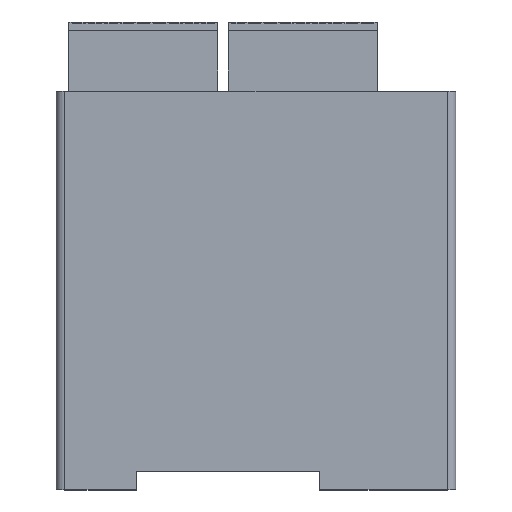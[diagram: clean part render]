
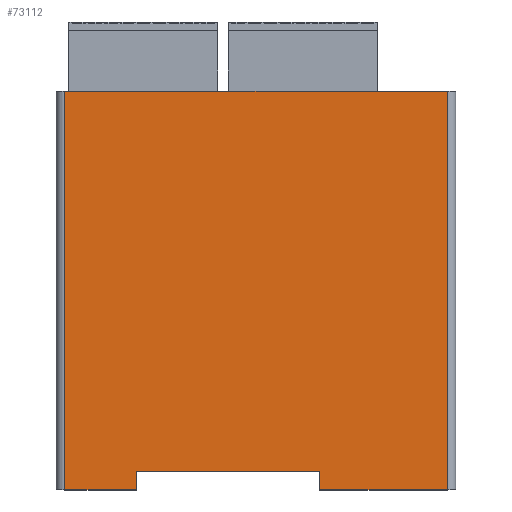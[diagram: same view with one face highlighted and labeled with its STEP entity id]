
A CAD part, top view. The second image highlights one B-rep face of the part: STEP entity #73112.
In plain terms, the highlighted planar face has unit normal (0, 0, 1).
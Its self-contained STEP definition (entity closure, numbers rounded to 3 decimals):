
#17=DIRECTION('',(0.,-1.,0.));
#18=VECTOR('',#17,4.35);
#19=CARTESIAN_POINT('',(15.01,-34.35,31.));
#20=LINE('',#19,#18);
#29=DIRECTION('',(1.,0.,0.));
#30=VECTOR('',#29,43.08);
#31=CARTESIAN_POINT('',(-28.07,-34.35,31.));
#32=LINE('',#31,#30);
#75=DIRECTION('',(0.,-1.,0.));
#76=VECTOR('',#75,93.7);
#77=CARTESIAN_POINT('',(-45.,55.,31.));
#78=LINE('',#77,#76);
#5947=DIRECTION('',(0.,1.,0.));
#5948=VECTOR('',#5947,93.7);
#5949=CARTESIAN_POINT('',(45.,-38.7,31.));
#5950=LINE('',#5949,#5948);
#7795=DIRECTION('',(0.,-1.,0.));
#7796=VECTOR('',#7795,4.35);
#7797=CARTESIAN_POINT('',(-28.07,-34.35,31.));
#7798=LINE('',#7797,#7796);
#7799=DIRECTION('',(-1.,0.,0.));
#7800=VECTOR('',#7799,16.93);
#7801=CARTESIAN_POINT('',(-28.07,-38.7,31.));
#7802=LINE('',#7801,#7800);
#7803=DIRECTION('',(1.,0.,0.));
#7804=VECTOR('',#7803,90.);
#7805=CARTESIAN_POINT('',(-45.,55.,31.));
#7806=LINE('',#7805,#7804);
#7807=DIRECTION('',(-1.,0.,0.));
#7808=VECTOR('',#7807,29.99);
#7809=CARTESIAN_POINT('',(45.,-38.7,31.));
#7810=LINE('',#7809,#7808);
#49445=CARTESIAN_POINT('',(15.01,-34.35,31.));
#49446=VERTEX_POINT('',#49445);
#49447=CARTESIAN_POINT('',(15.01,-38.7,31.));
#49448=VERTEX_POINT('',#49447);
#49449=CARTESIAN_POINT('',(-28.07,-34.35,31.));
#49450=VERTEX_POINT('',#49449);
#49451=CARTESIAN_POINT('',(-28.07,-38.7,31.));
#49452=VERTEX_POINT('',#49451);
#49453=CARTESIAN_POINT('',(45.,-38.7,31.));
#49454=VERTEX_POINT('',#49453);
#49463=CARTESIAN_POINT('',(-45.,-38.7,31.));
#49464=VERTEX_POINT('',#49463);
#49465=CARTESIAN_POINT('',(-45.,55.,31.));
#49466=VERTEX_POINT('',#49465);
#49467=CARTESIAN_POINT('',(45.,55.,31.));
#49468=VERTEX_POINT('',#49467);
#73097=CARTESIAN_POINT('',(0.,0.,31.));
#73098=DIRECTION('',(0.,0.,1.));
#73099=DIRECTION('',(1.,0.,0.));
#73100=AXIS2_PLACEMENT_3D('',#73097,#73098,#73099);
#73101=PLANE('',#73100);
#73102=ORIENTED_EDGE('',*,*,#65921,.F.);
#73103=ORIENTED_EDGE('',*,*,#65936,.F.);
#73104=ORIENTED_EDGE('',*,*,#65950,.T.);
#73105=ORIENTED_EDGE('',*,*,#65969,.T.);
#73106=ORIENTED_EDGE('',*,*,#66015,.F.);
#73107=ORIENTED_EDGE('',*,*,#66027,.T.);
#73108=ORIENTED_EDGE('',*,*,#71472,.F.);
#73109=ORIENTED_EDGE('',*,*,#73088,.T.);
#73110=EDGE_LOOP('',(#73102,#73103,#73104,#73105,#73106,#73107,#73108,#73109));
#73111=FACE_OUTER_BOUND('',#73110,.F.);
#65921=EDGE_CURVE('',#49446,#49448,#20,.T.);
#65936=EDGE_CURVE('',#49450,#49446,#32,.T.);
#65950=EDGE_CURVE('',#49450,#49452,#7798,.T.);
#65969=EDGE_CURVE('',#49452,#49464,#7802,.T.);
#66015=EDGE_CURVE('',#49466,#49464,#78,.T.);
#66027=EDGE_CURVE('',#49466,#49468,#7806,.T.);
#71472=EDGE_CURVE('',#49454,#49468,#5950,.T.);
#73088=EDGE_CURVE('',#49454,#49448,#7810,.T.);
#73112=ADVANCED_FACE('',(#73111),#73101,.T.);
